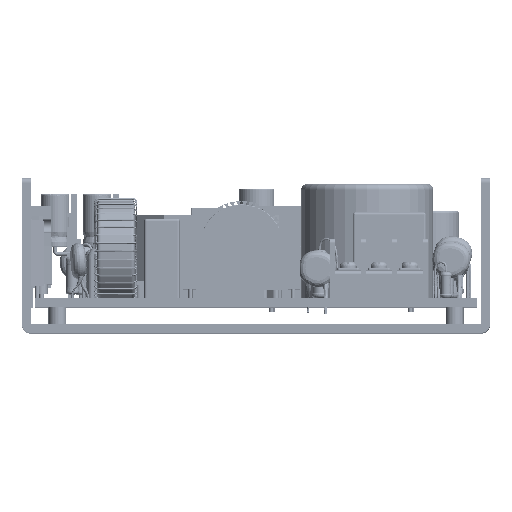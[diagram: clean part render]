
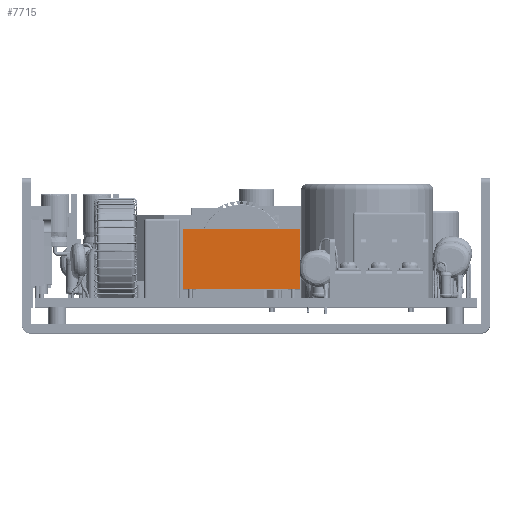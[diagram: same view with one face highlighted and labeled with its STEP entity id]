
A CAD part, top view. The second image highlights one B-rep face of the part: STEP entity #7715.
In plain terms, the highlighted planar face has unit normal (0, 0, 1).
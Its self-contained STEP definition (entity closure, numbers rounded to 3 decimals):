
#7715 = ADVANCED_FACE ( 'NONE', ( #28997 ), #27162, .T. ) ;
#16597 = VERTEX_POINT ( 'NONE', #39843 ) ;
#16598 = VERTEX_POINT ( 'NONE', #39844 ) ;
#16601 = VERTEX_POINT ( 'NONE', #39847 ) ;
#16602 = VERTEX_POINT ( 'NONE', #39848 ) ;
#27162 = PLANE ( 'NONE',  #154711 ) ;
#27163 = CARTESIAN_POINT ( 'NONE',  ( 7.698, -13.226, 70.786 ) ) ;
#27165 = DIRECTION ( 'NONE',  ( 0., 0., 1. ) ) ;
#27167 = DIRECTION ( 'NONE',  ( 1., 0., 0. ) ) ;
#28997 = FACE_OUTER_BOUND ( 'NONE', #35228, .T. ) ;
#35228 = EDGE_LOOP ( 'NONE', ( #135644, #135651, #135649, #135653 ) ) ;
#39843 = CARTESIAN_POINT ( 'NONE',  ( -18.802, -13.226, 70.786 ) ) ;
#39844 = CARTESIAN_POINT ( 'NONE',  ( 7.698, -13.226, 70.786 ) ) ;
#39847 = CARTESIAN_POINT ( 'NONE',  ( -18.802, 0.574, 70.786 ) ) ;
#39848 = CARTESIAN_POINT ( 'NONE',  ( 7.698, 0.574, 70.786 ) ) ;
#123363 = EDGE_CURVE ( 'NONE', #16597, #16598, #130527, .T. ) ;
#123371 = EDGE_CURVE ( 'NONE', #16597, #16601, #130532, .T. ) ;
#123372 = EDGE_CURVE ( 'NONE', #16601, #16602, #130534, .T. ) ;
#123374 = EDGE_CURVE ( 'NONE', #16598, #16602, #130535, .T. ) ;
#130527 = LINE ( 'NONE', #140654, #142465 ) ;
#130532 = LINE ( 'NONE', #140666, #142497 ) ;
#130534 = LINE ( 'NONE', #140668, #142502 ) ;
#130535 = LINE ( 'NONE', #140670, #142507 ) ;
#135644 = ORIENTED_EDGE ( 'NONE', *, *, #123372, .F. ) ;
#135649 = ORIENTED_EDGE ( 'NONE', *, *, #123363, .T. ) ;
#135651 = ORIENTED_EDGE ( 'NONE', *, *, #123371, .F. ) ;
#135653 = ORIENTED_EDGE ( 'NONE', *, *, #123374, .T. ) ;
#140654 = CARTESIAN_POINT ( 'NONE',  ( 7.698, -13.226, 70.786 ) ) ;
#140655 = DIRECTION ( 'NONE',  ( 1., 0., 0. ) ) ;
#140666 = CARTESIAN_POINT ( 'NONE',  ( -18.802, -13.226, 70.786 ) ) ;
#140667 = DIRECTION ( 'NONE',  ( 0., 1., 0. ) ) ;
#140668 = CARTESIAN_POINT ( 'NONE',  ( 7.698, 0.574, 70.786 ) ) ;
#140669 = DIRECTION ( 'NONE',  ( 1., 0., 0. ) ) ;
#140670 = CARTESIAN_POINT ( 'NONE',  ( 7.698, -13.226, 70.786 ) ) ;
#140671 = DIRECTION ( 'NONE',  ( 0., 1., 0. ) ) ;
#142465 = VECTOR ( 'NONE', #140655, 1000. ) ;
#142497 = VECTOR ( 'NONE', #140667, 1000. ) ;
#142502 = VECTOR ( 'NONE', #140669, 1000. ) ;
#142507 = VECTOR ( 'NONE', #140671, 1000. ) ;
#154711 = AXIS2_PLACEMENT_3D ( 'NONE', #27163, #27165, #27167 ) ;
